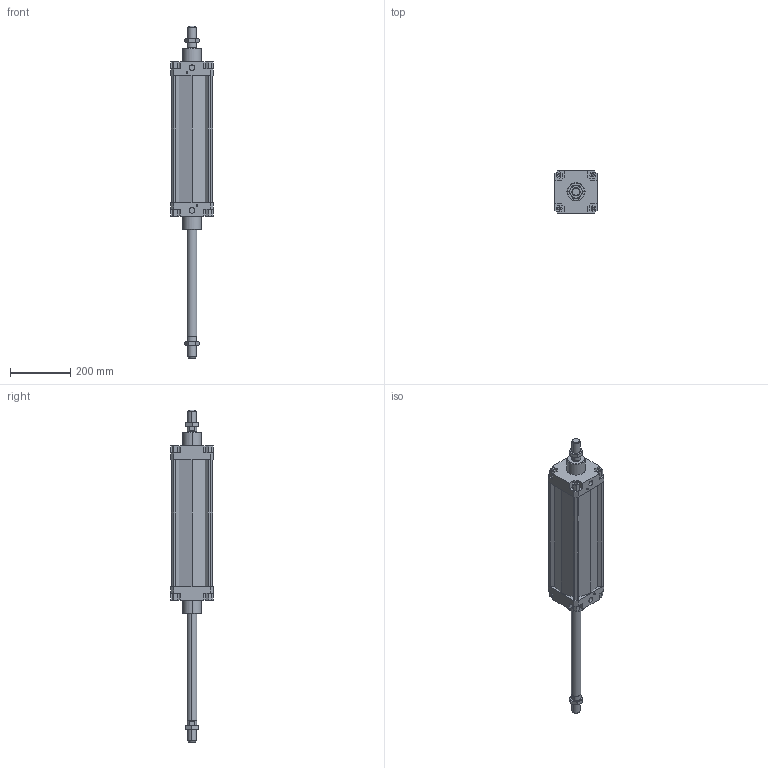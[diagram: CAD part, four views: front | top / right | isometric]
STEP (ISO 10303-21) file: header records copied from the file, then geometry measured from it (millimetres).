
FILE_DESCRIPTION((''),'2;1');
FILE_NAME('I:\DOC-EDP\Lib-3d\1319\CILINDRI\Ø125\1319_125_0350_02.stp','2003-04-08T12:21:18',('maffial1'),(''),'Autodesk Inventor (R) 6.0','Autodesk Inventor (R) 6.0','');
FILE_SCHEMA(('AUTOMOTIVE_DESIGN { 1 0 10303 214 1 1 1 1 }'));
Length unit declared in the file: millimetre
Products named in the file (4): 1319_125_0350_02; CIM04_125_350; CIM03_125_350; 1320_125_18F
Assembly tree (4 placements, depth 2):
  1319_125_0350_02
    CIM04_125_350
    CIM03_125_350
    1320_125_18F  x2
Bounding box: 140 x 140 x 1098 mm (x, y, z)
Volume: 8941236.8 mm3; surface area: 545937.6 mm2
Topology: 4 solids, 4 shells, 290 faces, 724 edges, 452 vertices
Faces by surface type: plane 130, bspline 72, cone 60, cylinder 28
Entity records: 8094 total; most frequent: CARTESIAN_POINT 1972, ORIENTED_EDGE 1288, DIRECTION 1160, EDGE_CURVE 644, VECTOR 480, LINE 480, VERTEX_POINT 416, AXIS2_PLACEMENT_3D 340
